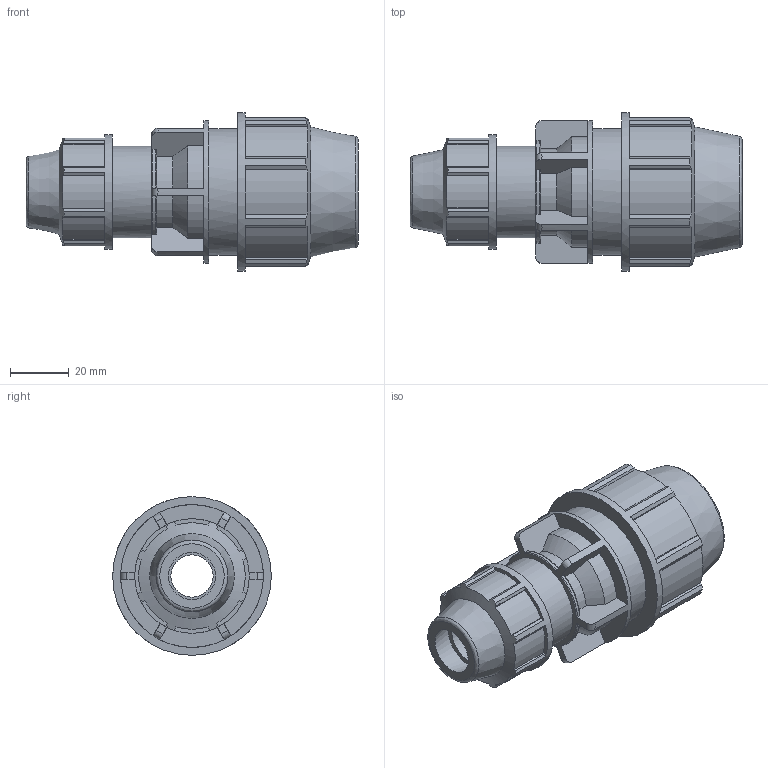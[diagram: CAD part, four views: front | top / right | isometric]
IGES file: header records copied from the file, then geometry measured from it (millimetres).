
Global section: file name: 071100025016_181100025016_0711060250160A.ipt; native system: Autodesk Inventor 2015; preprocessor: unknown; author: KIM; date: 20170606.133321; units: millimetre
Bounding box: 113 x 54 x 54 mm (x, y, z)
Volume: 102616.9 mm3; surface area: 28841.2 mm2
Topology: 1 solids, 1 shells, 189 faces, 553 edges, 374 vertices
Faces by surface type: plane 114, cylinder 45, revolution 20, cone 10
Full cylindrical faces by diameter (mm): 31.2 x1, 39 x1, 43.2 x1, 48.6 x1, 54 x1
